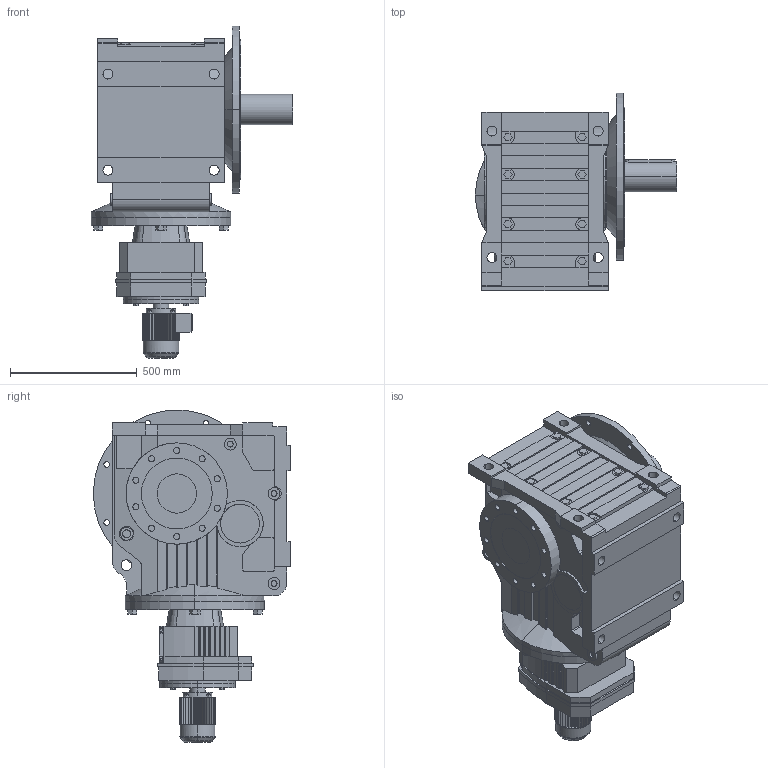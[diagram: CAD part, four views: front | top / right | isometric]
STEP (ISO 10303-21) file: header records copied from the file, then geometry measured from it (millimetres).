
FILE_DESCRIPTION(('Open CASCADE Model'),'2;1');
FILE_NAME('Open CASCADE Shape Model','2021-07-24T17:26:25',('Author'),( 'Open CASCADE'),'Open CASCADE STEP processor 6.3','Open CASCADE 6.3' ,'Unknown');
FILE_SCHEMA(('AUTOMOTIVE_DESIGN_CC2 { 1 2 10303 214 -1 1 5 4 }'));
Length unit declared in the file: millimetre
Products named in the file (6): 1_KF157R97DT80-A; KA127‵157_157.step; 萇儂_300-DT80-231-295-145-122.step; R_157_97.step; す瑩妗陑粣K_157.step; 楊擘K_157.step
Assembly tree (5 placements, depth 2):
  1_KF157R97DT80-A
    KA127‵157_157.step
    萇儂_300-DT80-231-295-145-122.step
    R_157_97.step
    す瑩妗陑粣K_157.step
    楊擘K_157.step
Bounding box: 795 x 780 x 1312 mm (x, y, z)
Volume: 236083571.3 mm3; surface area: 5572960.8 mm2
Topology: 5 solids, 5 shells, 1193 faces, 3134 edges, 2048 vertices
Faces by surface type: plane 792, cylinder 373, cone 24, torus 4
Entity records: 85075 total; most frequent: CARTESIAN_POINT 25503, DIRECTION 10205, ORIENTED_EDGE 6264, PCURVE 6264, DEFINITIONAL_REPRESENTATION 6264, LINE 5567, VECTOR 5567, EDGE_CURVE 3132
